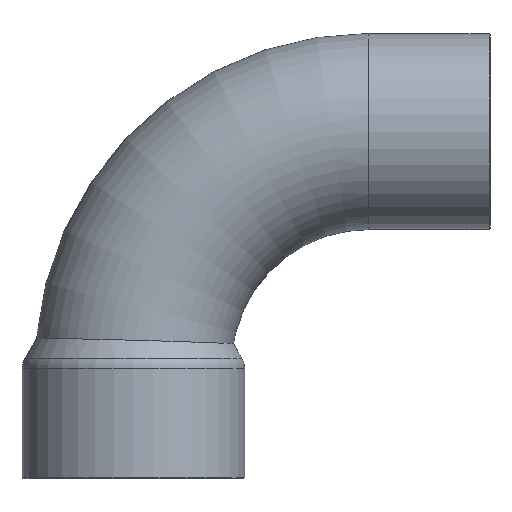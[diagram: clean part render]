
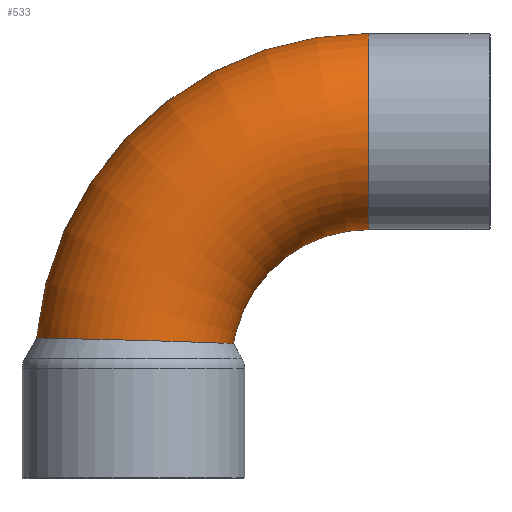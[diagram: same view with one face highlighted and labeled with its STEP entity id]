
A CAD part, left-side view. The second image highlights one B-rep face of the part: STEP entity #533.
In plain terms, the highlighted toroidal (fillet/blend) face has major radius 49.5 mm and minor radius 20.635 mm.
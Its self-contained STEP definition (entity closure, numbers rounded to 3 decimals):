
#382=CARTESIAN_POINT('',(0.,69.874,6.049));
#383=VERTEX_POINT('',#382);
#384=CARTESIAN_POINT('',(0.0,69.874,6.049));
#385=CARTESIAN_POINT('',(-1.482,69.874,6.049));
#386=CARTESIAN_POINT('',(-2.96,69.714,6.046));
#387=CARTESIAN_POINT('',(-5.824,69.086,6.034));
#388=CARTESIAN_POINT('',(-7.203,68.627,6.026));
#389=CARTESIAN_POINT('',(-11.007,66.898,5.993));
#390=CARTESIAN_POINT('',(-13.242,65.287,5.962));
#391=CARTESIAN_POINT('',(-16.957,61.289,5.88));
#392=CARTESIAN_POINT('',(-18.4,58.941,5.829));
#393=CARTESIAN_POINT('',(-20.295,53.817,5.711));
#394=CARTESIAN_POINT('',(-20.727,51.091,5.644));
#395=CARTESIAN_POINT('',(-20.51,45.616,5.496));
#396=CARTESIAN_POINT('',(-19.858,42.92,5.416));
#397=CARTESIAN_POINT('',(-17.583,38.019,5.257));
#398=CARTESIAN_POINT('',(-16.012,35.845,5.18));
#399=CARTESIAN_POINT('',(-12.072,32.151,5.038));
#400=CARTESIAN_POINT('',(-9.717,30.69,4.976));
#401=CARTESIAN_POINT('',(-5.666,29.185,4.911));
#402=CARTESIAN_POINT('',(-4.129,28.808,4.893));
#403=CARTESIAN_POINT('',(-1.537,28.481,4.879));
#404=CARTESIAN_POINT('',(-0.502,28.43,4.876));
#405=CARTESIAN_POINT('',(1.657,28.486,4.879));
#406=CARTESIAN_POINT('',(2.775,28.608,4.884));
#407=CARTESIAN_POINT('',(6.078,29.244,4.913));
#408=CARTESIAN_POINT('',(8.191,30.024,4.948));
#409=CARTESIAN_POINT('',(12.515,32.478,5.05));
#410=CARTESIAN_POINT('',(14.6,34.285,5.122));
#411=CARTESIAN_POINT('',(17.868,38.499,5.273));
#412=CARTESIAN_POINT('',(19.062,40.836,5.351));
#413=CARTESIAN_POINT('',(20.505,45.754,5.499));
#414=CARTESIAN_POINT('',(20.768,48.285,5.569));
#415=CARTESIAN_POINT('',(20.376,53.306,5.699));
#416=CARTESIAN_POINT('',(19.727,55.756,5.757));
#417=CARTESIAN_POINT('',(17.572,60.327,5.859));
#418=CARTESIAN_POINT('',(16.075,62.407,5.903));
#419=CARTESIAN_POINT('',(12.362,65.954,5.975));
#420=CARTESIAN_POINT('',(10.166,67.376,6.002));
#421=CARTESIAN_POINT('',(5.298,69.358,6.039));
#422=CARTESIAN_POINT('',(2.662,69.874,6.049));
#423=CARTESIAN_POINT('',(0.,69.874,6.049));
#424=B_SPLINE_CURVE_WITH_KNOTS('',3,(#384,#385,#386,#387,#388,#389,#390,#391,#392,#393,#394,#395,#396,#397,#398,#399,#400,#401,#402,#403,#404,#405,#406,#407,#408,#409,#410,#411,#412,#413,#414,#415,#416,#417,#418,#419,#420,#421,#422,#423),.UNSPECIFIED.,.T.,.U.,(4,2,2,2,2,2,2,2,2,2,2,2,2,2,2,2,2,2,2,4),(-13.025,-12.581,-12.146,-11.327,-10.508,-9.688,-8.864,-8.067,-7.243,-6.77,-6.46,-6.123,-5.451,-4.631,-3.85,-3.093,-2.339,-1.577,-0.799,0.0),.UNSPECIFIED.);
#425=EDGE_CURVE('',#383,#383,#424,.T.);
#514=CARTESIAN_POINT('',(0.0,0.0,0.0));
#515=DIRECTION('',(1.0,0.0,0.0));
#516=DIRECTION('',(0.0,0.0,-1.0));
#517=AXIS2_PLACEMENT_3D('',#514,#515,#516);
#518=TOROIDAL_SURFACE('',#517,49.5,20.635);
#519=CARTESIAN_POINT('',(20.635,0.,49.5));
#520=VERTEX_POINT('',#519);
#521=CARTESIAN_POINT('',(0.0,0.,49.5));
#522=DIRECTION('',(0.0,1.0,0.0));
#523=DIRECTION('',(-1.0,0.0,0.0));
#524=AXIS2_PLACEMENT_3D('',#521,#522,#523);
#525=CIRCLE('',#524,20.635);
#526=EDGE_CURVE('',#520,#520,#525,.T.);
#527=ORIENTED_EDGE('',*,*,#526,.T.);
#528=EDGE_LOOP('',(#527));
#529=FACE_OUTER_BOUND('',#528,.T.);
#530=ORIENTED_EDGE('',*,*,#425,.T.);
#531=EDGE_LOOP('',(#530));
#532=FACE_BOUND('',#531,.T.);
#533=ADVANCED_FACE('',(#529,#532),#518,.T.);
